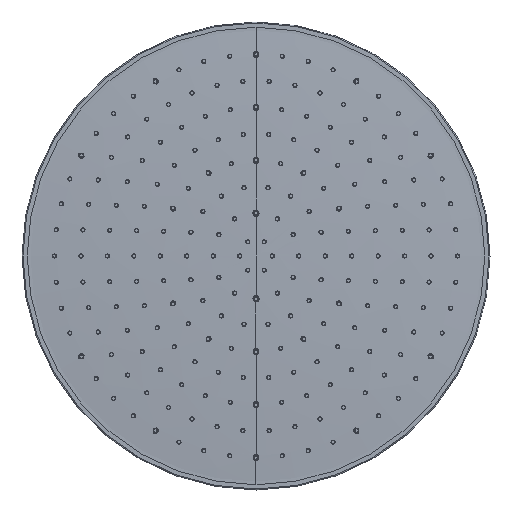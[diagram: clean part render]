
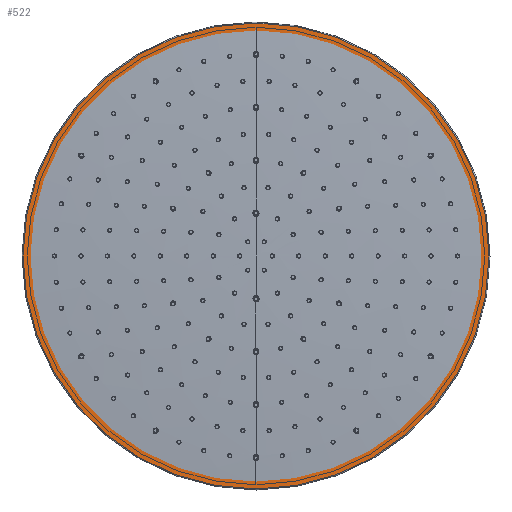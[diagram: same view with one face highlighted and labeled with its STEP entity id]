
A CAD part, front view. The second image highlights one B-rep face of the part: STEP entity #522.
In plain terms, the highlighted planar face has unit normal (0, -1, 0).
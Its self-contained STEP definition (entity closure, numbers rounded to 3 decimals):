
#195=CARTESIAN_POINT('',(0.,2.4,0.));
#196=DIRECTION('',(0.,1.,0.));
#197=DIRECTION('',(1.,0.,0.));
#198=AXIS2_PLACEMENT_3D('',#195,#196,#197);
#200=CARTESIAN_POINT('',(0.,2.4,0.));
#201=DIRECTION('',(0.,1.,0.));
#202=DIRECTION('',(-1.,0.,-0.001));
#203=AXIS2_PLACEMENT_3D('',#200,#201,#202);
#205=CARTESIAN_POINT('',(0.,2.4,0.));
#206=DIRECTION('',(0.,1.,0.));
#207=DIRECTION('',(-1.,0.,0.));
#208=AXIS2_PLACEMENT_3D('',#205,#206,#207);
#210=CARTESIAN_POINT('',(0.,2.4,0.));
#211=DIRECTION('',(0.,1.,0.));
#212=DIRECTION('',(1.,0.,0.001));
#213=AXIS2_PLACEMENT_3D('',#210,#211,#212);
#235=CARTESIAN_POINT('',(114.497,2.4,0.));
#236=VERTEX_POINT('',#235);
#237=CARTESIAN_POINT('',(114.497,2.4,0.08));
#238=VERTEX_POINT('',#237);
#239=CARTESIAN_POINT('',(-114.497,2.4,0.));
#240=VERTEX_POINT('',#239);
#241=CARTESIAN_POINT('',(-114.497,2.4,
-0.08));
#242=VERTEX_POINT('',#241);
#511=CARTESIAN_POINT('',(-154.999,2.4,-185.5));
#512=DIRECTION('',(0.,-1.,0.));
#513=DIRECTION('',(1.,0.,0.));
#514=AXIS2_PLACEMENT_3D('',#511,#512,#513);
#515=PLANE('',#514);
#516=ORIENTED_EDGE('',*,*,#354,.T.);
#517=ORIENTED_EDGE('',*,*,#352,.T.);
#518=ORIENTED_EDGE('',*,*,#337,.T.);
#519=ORIENTED_EDGE('',*,*,#335,.T.);
#520=EDGE_LOOP('',(#516,#517,#518,#519));
#521=FACE_OUTER_BOUND('',#520,.F.);
#522=ADVANCED_FACE('',(#521),#515,.T.);
#199=CIRCLE('',#198,114.497);
#204=CIRCLE('',#203,114.497);
#209=CIRCLE('',#208,114.497);
#214=CIRCLE('',#213,114.497);
#335=EDGE_CURVE('',#238,#236,#214,.T.);
#337=EDGE_CURVE('',#240,#238,#209,.T.);
#352=EDGE_CURVE('',#242,#240,#204,.T.);
#354=EDGE_CURVE('',#236,#242,#199,.T.);
